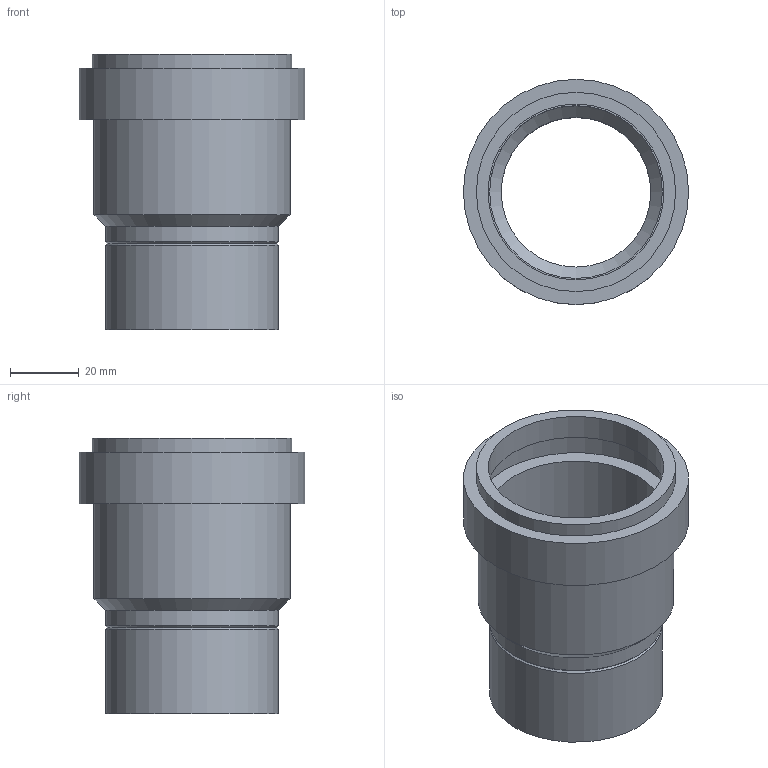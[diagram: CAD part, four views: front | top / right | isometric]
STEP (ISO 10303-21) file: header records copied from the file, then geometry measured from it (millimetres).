
FILE_DESCRIPTION(/* description */ (''),/* implementation_level */ '2;1');
FILE_NAME(/* name */ 'C:\Geberit-Teile\Export 2019\360.779.16.3\stp\361779.stp',/* time_stamp */ '2019-06-06T10:45:02+02:00',/* author */ ('JANAN'),/* organization */ (''),/* preprocessor_version */ 'ST-DEVELOPER v16.13',/* originating_system */ 'Autodesk Inventor 2018',/* authorisation */ '');
FILE_SCHEMA (('AUTOMOTIVE_DESIGN { 1 0 10303 214 3 1 1 }'));
Length unit declared in the file: millimetre
Products named in the file (1): StMuf mit LipDicht PE-HD d50 L8
Bounding box: 65.4 x 65.4 x 80 mm (x, y, z)
Volume: 50199.2 mm3; surface area: 30697.2 mm2
Topology: 1 solids, 1 shells, 19 faces, 34 edges, 21 vertices
Faces by surface type: cylinder 9, plane 6, cone 4
Full cylindrical faces by diameter (mm): 43.45 x1, 50.15 x1, 50.25 x2, 51.05 x1, 56.95 x1, 57.85 x1, 58.6 x1, 65.4 x1
Entity records: 446 total; most frequent: DIRECTION 78, CARTESIAN_POINT 58, AXIS2_PLACEMENT_3D 39, EDGE_LOOP 38, ORIENTED_EDGE 38, STYLED_ITEM 20, FACE_BOUND 19, FACE_OUTER_BOUND 19
